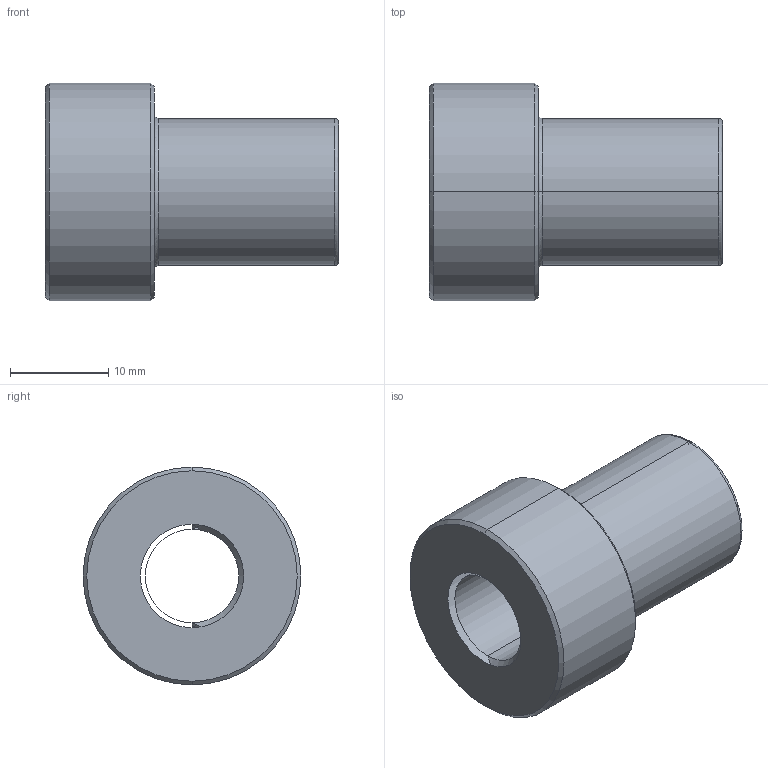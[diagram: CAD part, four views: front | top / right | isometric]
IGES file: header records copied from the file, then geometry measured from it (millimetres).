
Start section: 3D InterOp IGES (v. 2019 1.0.2), Spatial Corp. Copyright (c) 1999-2017.
Global section: file name: B4SS.igs; native system: Spatial Corp.; preprocessor: 3D InterOp GENERIC/IGES 3.0; author: Noname; organization: Noname; date: 20200930.105800; units: millimetre
Bounding box: 29.89 x 22.22 x 22.22 mm (x, y, z)
Surface area: 3277.9 mm2 (no closed solid volume)
Topology: 0 solids, 0 shells, 21 faces, 88 edges, 86 vertices
Faces by surface type: revolution 18, extrusion 3
